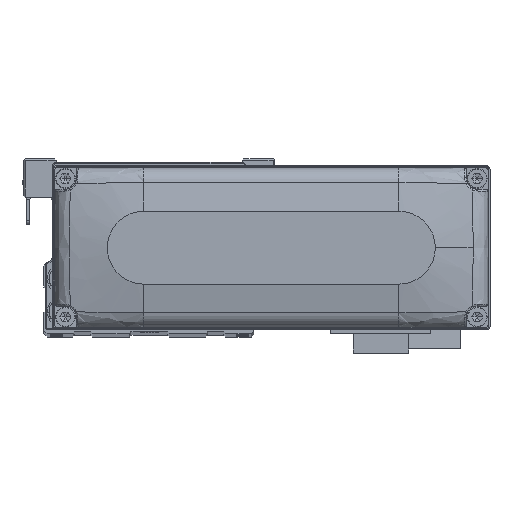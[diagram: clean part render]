
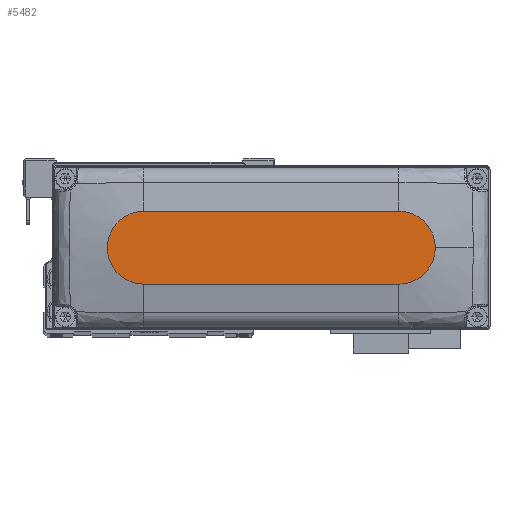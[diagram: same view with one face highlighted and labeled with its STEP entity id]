
A CAD part, top view. The second image highlights one B-rep face of the part: STEP entity #5482.
In plain terms, the highlighted planar face has unit normal (0, 0, 1).
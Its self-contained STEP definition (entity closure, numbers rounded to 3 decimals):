
#276 = EDGE_CURVE ( 'NONE', #30281, #35004, #13020, .T. ) ;
#387 = DIRECTION ( 'NONE',  ( -1., 0., 0. ) ) ;
#501 = EDGE_CURVE ( 'NONE', #28410, #30281, #15134, .T. ) ;
#1177 = ORIENTED_EDGE ( 'NONE', *, *, #501, .T. ) ;
#1767 = CARTESIAN_POINT ( 'NONE',  ( -35., -10., 28. ) ) ;
#1778 = DIRECTION ( 'NONE',  ( 1., 0., 0. ) ) ;
#4442 = DIRECTION ( 'NONE',  ( 1., 0., 0. ) ) ;
#4643 = ORIENTED_EDGE ( 'NONE', *, *, #37100, .T. ) ;
#4821 = DIRECTION ( 'NONE',  ( 0., 0., 1. ) ) ;
#5458 = ORIENTED_EDGE ( 'NONE', *, *, #276, .T. ) ;
#5482 = ADVANCED_FACE ( 'NONE', ( #33897 ), #7332, .T. ) ;
#7332 = PLANE ( 'NONE',  #26015 ) ;
#7360 = CARTESIAN_POINT ( 'NONE',  ( -35., -10., 28. ) ) ;
#8871 = EDGE_CURVE ( 'NONE', #35004, #18255, #33923, .T. ) ;
#10463 = CARTESIAN_POINT ( 'NONE',  ( 35., 10., 28. ) ) ;
#10588 = CARTESIAN_POINT ( 'NONE',  ( 35., 0., 28. ) ) ;
#10906 = VERTEX_POINT ( 'NONE', #26508 ) ;
#13020 = CIRCLE ( 'NONE', #34685, 10. ) ;
#14106 = AXIS2_PLACEMENT_3D ( 'NONE', #10588, #22405, #34232 ) ;
#15134 = LINE ( 'NONE', #26970, #21388 ) ;
#15556 = EDGE_CURVE ( 'NONE', #10906, #28410, #33764, .T. ) ;
#16513 = CARTESIAN_POINT ( 'NONE',  ( -35., 0., 28. ) ) ;
#16634 = DIRECTION ( 'NONE',  ( 1., 0., 0. ) ) ;
#17040 = AXIS2_PLACEMENT_3D ( 'NONE', #31399, #4821, #16634 ) ;
#18255 = VERTEX_POINT ( 'NONE', #23918 ) ;
#19159 = CARTESIAN_POINT ( 'NONE',  ( 0., 0., 28. ) ) ;
#19196 = DIRECTION ( 'NONE',  ( 1., 0., 0. ) ) ;
#19858 = EDGE_LOOP ( 'NONE', ( #1177, #5458, #36454, #4643, #29615 ) ) ;
#21388 = VECTOR ( 'NONE', #387, 1000. ) ;
#22405 = DIRECTION ( 'NONE',  ( 0., 0., 1. ) ) ;
#23918 = CARTESIAN_POINT ( 'NONE',  ( 35., -10., 28. ) ) ;
#25490 = VECTOR ( 'NONE', #19196, 1000. ) ;
#26015 = AXIS2_PLACEMENT_3D ( 'NONE', #19159, #31005, #4442 ) ;
#26508 = CARTESIAN_POINT ( 'NONE',  ( 45., 0., 28. ) ) ;
#26970 = CARTESIAN_POINT ( 'NONE',  ( -35., 10., 28. ) ) ;
#28359 = DIRECTION ( 'NONE',  ( 0., 0., 1. ) ) ;
#28410 = VERTEX_POINT ( 'NONE', #10463 ) ;
#29615 = ORIENTED_EDGE ( 'NONE', *, *, #15556, .T. ) ;
#30281 = VERTEX_POINT ( 'NONE', #35031 ) ;
#30841 = CIRCLE ( 'NONE', #14106, 10. ) ;
#31005 = DIRECTION ( 'NONE',  ( 0., 0., 1. ) ) ;
#31399 = CARTESIAN_POINT ( 'NONE',  ( 35., 0., 28. ) ) ;
#33764 = CIRCLE ( 'NONE', #17040, 10. ) ;
#33897 = FACE_OUTER_BOUND ( 'NONE', #19858, .T. ) ;
#33923 = LINE ( 'NONE', #7360, #25490 ) ;
#34232 = DIRECTION ( 'NONE',  ( 1., 0., 0. ) ) ;
#34685 = AXIS2_PLACEMENT_3D ( 'NONE', #16513, #28359, #1778 ) ;
#35004 = VERTEX_POINT ( 'NONE', #1767 ) ;
#35031 = CARTESIAN_POINT ( 'NONE',  ( -35., 10., 28. ) ) ;
#36454 = ORIENTED_EDGE ( 'NONE', *, *, #8871, .T. ) ;
#37100 = EDGE_CURVE ( 'NONE', #18255, #10906, #30841, .T. ) ;
